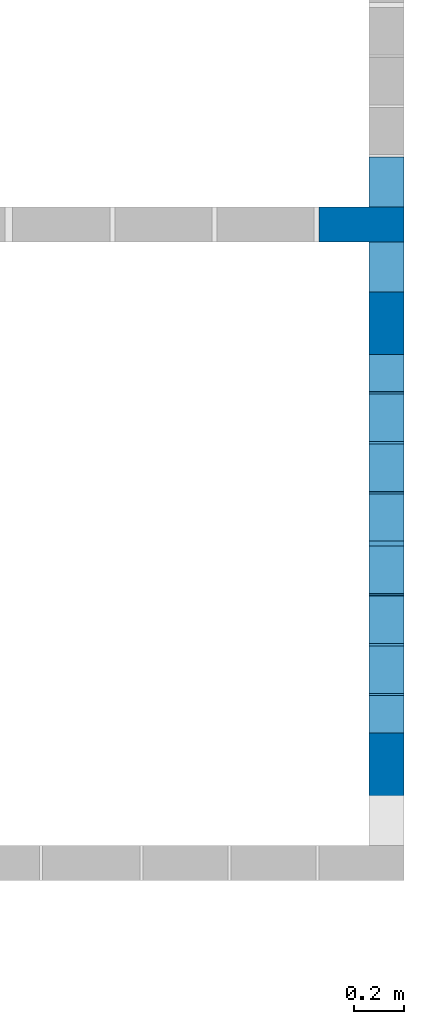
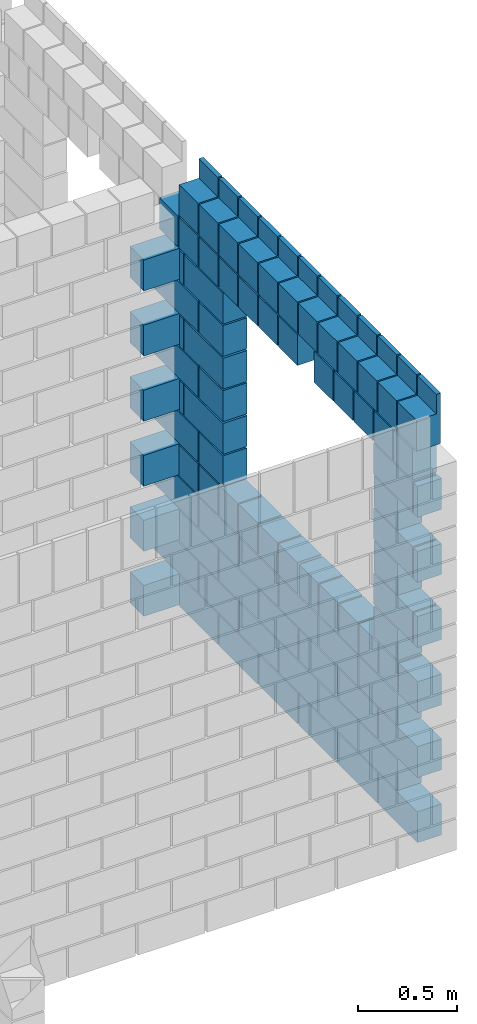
# One storey, part 6 of 12: 2 walls.
"""IFC4 building model written with IfcOpenShell, lengths in centimetres."""

from ifc_helpers import new_model, si_unit, derived_unit, frame, origin, origin_with_axes, origin_2d_with_axis, place, context, project, spatial, rectangle, extrude, element, save


model = new_model("IFC4")

# Units and contexts
model_context = context("Model", 3, precision=1e-05, world=origin_with_axes(), identifier="Body")
ifc_project = project(units=[si_unit("LENGTHUNIT", "METRE", prefix="CENTI"), si_unit("VOLUMEUNIT", "CUBIC_METRE"), si_unit("AREAUNIT", "SQUARE_METRE"), si_unit("POWERUNIT", "WATT"), si_unit("LUMINOUSFLUXUNIT", "LUMEN"), si_unit("ELECTRICCURRENTUNIT", "AMPERE"), si_unit("PRESSUREUNIT", "PASCAL", prefix="KILO"), si_unit("MASSUNIT", "GRAM", prefix="KILO"), si_unit("PLANEANGLEUNIT", "RADIAN"), derived_unit("VOLUMETRICFLOWRATEUNIT", [(si_unit("LENGTHUNIT", "METRE"), 3), (si_unit("TIMEUNIT", "SECOND"), -1)])], contexts=[model_context])

# Site, building, storey
site_placement = place(None, origin_with_axes())
site = spatial("IfcSite", under=ifc_project, at=site_placement)
building_placement = place(site_placement, origin())
building = spatial("IfcBuilding", under=site, at=building_placement)
storey_placement = place(building_placement, origin_with_axes())
storey = spatial("IfcBuildingStorey", under=building, at=storey_placement, Name="PISO", CompositionType="ELEMENT", Elevation=0.0)

# Walls
wall_1_placement = place(storey_placement, frame((682.01, 381.01, 239.0), z_axis=(0.0, 0.0, 1.0), x_axis=(1.0, 0.0, 0.0)))
element("IfcWall", 1, at=wall_1_placement, inside=storey, context=model_context, shape_type="SolidModel", body=[
    extrude(rectangle(XDim=34.0, YDim=14.0, at=origin_2d_with_axis()), frame((0.0, 0.0, -239.0), z_axis=(0.0, 0.0, 1.0), x_axis=(-1.0, 0.0, 0.0)), (0.0, 0.0, 1.0), 19.0),
    extrude(rectangle(XDim=54.0, YDim=14.0, at=origin_2d_with_axis()), frame((10.0, 0.0, -219.0), z_axis=(0.0, 0.0, 1.0), x_axis=(0.0, -1.0, 0.0)), (0.0, 0.0, 1.0), 19.0),
    extrude(rectangle(XDim=34.0, YDim=14.0, at=origin_2d_with_axis()), frame((0.0, 0.0, -199.0), z_axis=(0.0, 0.0, 1.0), x_axis=(-1.0, 0.0, 0.0)), (0.0, 0.0, 1.0), 19.0),
    extrude(rectangle(XDim=54.0, YDim=14.0, at=origin_2d_with_axis()), frame((10.0, 0.0, -179.0), z_axis=(0.0, 0.0, 1.0), x_axis=(0.0, -1.0, 0.0)), (0.0, 0.0, 1.0), 19.0),
    extrude(rectangle(XDim=34.0, YDim=14.0, at=origin_2d_with_axis()), frame((0.0, 0.0, -159.0), z_axis=(0.0, 0.0, 1.0), x_axis=(-1.0, 0.0, 0.0)), (0.0, 0.0, 1.0), 19.0),
    extrude(rectangle(XDim=54.0, YDim=14.0, at=origin_2d_with_axis()), frame((10.0, 0.0, -139.0), z_axis=(0.0, 0.0, 1.0), x_axis=(0.0, -1.0, 0.0)), (0.0, 0.0, 1.0), 19.0),
    extrude(rectangle(XDim=34.0, YDim=14.0, at=origin_2d_with_axis()), frame((0.0, 0.0, -119.0), z_axis=(0.0, 0.0, 1.0), x_axis=(-1.0, 0.0, 0.0)), (0.0, 0.0, 1.0), 19.0),
    extrude(rectangle(XDim=54.0, YDim=14.0, at=origin_2d_with_axis()), frame((10.0, 0.0, -99.0), z_axis=(0.0, 0.0, 1.0), x_axis=(0.0, -1.0, 0.0)), (0.0, 0.0, 1.0), 19.0),
    extrude(rectangle(XDim=34.0, YDim=14.0, at=origin_2d_with_axis()), frame((0.0, 0.0, -79.0), z_axis=(0.0, 0.0, 1.0), x_axis=(-1.0, 0.0, 0.0)), (0.0, 0.0, 1.0), 19.0),
    extrude(rectangle(XDim=54.0, YDim=14.0, at=origin_2d_with_axis()), frame((10.0, 0.0, -59.0), z_axis=(0.0, 0.0, 1.0), x_axis=(0.0, -1.0, 0.0)), (0.0, 0.0, 1.0), 19.0),
    extrude(rectangle(XDim=34.0, YDim=14.0, at=origin_2d_with_axis()), frame((0.0, 0.0, -39.0), z_axis=(0.0, 0.0, 1.0), x_axis=(-1.0, 0.0, 0.0)), (0.0, 0.0, 1.0), 19.0),
    extrude(rectangle(XDim=19.0, YDim=14.0, at=origin_2d_with_axis()), frame((10.0, 2.5, -19.0), z_axis=(0.0, 0.0, 1.0), x_axis=(0.0, 1.0, 0.0)), (0.0, 0.0, 1.0), 19.0),
])
wall_2_placement = place(storey_placement, frame((692.01, 253.005, 271.0), z_axis=(0.0, 0.0, 1.0), x_axis=(1.0, 0.0, 0.0)))
element("IfcWall", 2, at=wall_2_placement, inside=storey, Name="PAR-PISO-15", context=model_context, shape_type="SolidModel", body=[
    extrude(rectangle(XDim=39.0, YDim=14.0, at=origin_2d_with_axis()), frame((0.0, 100.36071428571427, -271.0), z_axis=(0.0, 0.0, 1.0), x_axis=(0.0, -1.0, 0.0)), (0.0, 0.0, 1.0), 19.0),
    extrude(rectangle(XDim=39.0, YDim=14.0, at=origin_2d_with_axis()), frame((0.0, 60.21642857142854, -271.0), z_axis=(0.0, 0.0, 1.0), x_axis=(0.0, -1.0, 0.0)), (0.0, 0.0, 1.0), 19.0),
    extrude(rectangle(XDim=39.0, YDim=14.0, at=origin_2d_with_axis()), frame((0.0, 20.072142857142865, -271.0), z_axis=(0.0, 0.0, 1.0), x_axis=(0.0, -1.0, 0.0)), (0.0, 0.0, 1.0), 19.0),
    extrude(rectangle(XDim=39.0, YDim=14.0, at=origin_2d_with_axis()), frame((0.0, -20.072142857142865, -271.0), z_axis=(0.0, 0.0, 1.0), x_axis=(0.0, -1.0, 0.0)), (0.0, 0.0, 1.0), 19.0),
    extrude(rectangle(XDim=39.0, YDim=14.0, at=origin_2d_with_axis()), frame((0.0, -60.216428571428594, -271.0), z_axis=(0.0, 0.0, 1.0), x_axis=(0.0, -1.0, 0.0)), (0.0, 0.0, 1.0), 19.0),
    extrude(rectangle(XDim=39.0, YDim=14.0, at=origin_2d_with_axis()), frame((0.0, -100.36071428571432, -271.0), z_axis=(0.0, 0.0, 1.0), x_axis=(0.0, -1.0, 0.0)), (0.0, 0.0, 1.0), 19.0),
    extrude(rectangle(XDim=39.0, YDim=14.0, at=origin_2d_with_axis()), frame((0.0, 80.33666666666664, -251.0), z_axis=(0.0, 0.0, 1.0), x_axis=(0.0, -1.0, 0.0)), (0.0, 0.0, 1.0), 19.0),
    extrude(rectangle(XDim=39.0, YDim=14.0, at=origin_2d_with_axis()), frame((0.0, 40.16833333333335, -251.0), z_axis=(0.0, 0.0, 1.0), x_axis=(0.0, -1.0, 0.0)), (0.0, 0.0, 1.0), 19.0),
    extrude(rectangle(XDim=39.0, YDim=14.0, at=origin_2d_with_axis()), frame((0.0, 0.0, -251.0), z_axis=(0.0, 0.0, 1.0), x_axis=(0.0, -1.0, 0.0)), (0.0, 0.0, 1.0), 19.0),
    extrude(rectangle(XDim=39.0, YDim=14.0, at=origin_2d_with_axis()), frame((0.0, -40.16833333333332, -251.0), z_axis=(0.0, 0.0, 1.0), x_axis=(0.0, -1.0, 0.0)), (0.0, 0.0, 1.0), 19.0),
    extrude(rectangle(XDim=39.0, YDim=14.0, at=origin_2d_with_axis()), frame((0.0, -80.33666666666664, -251.0), z_axis=(0.0, 0.0, 1.0), x_axis=(0.0, -1.0, 0.0)), (0.0, 0.0, 1.0), 19.0),
    extrude(rectangle(XDim=39.0, YDim=14.0, at=origin_2d_with_axis()), frame((0.0, 100.36071428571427, -231.0), z_axis=(0.0, 0.0, 1.0), x_axis=(0.0, -1.0, 0.0)), (0.0, 0.0, 1.0), 19.0),
    extrude(rectangle(XDim=39.0, YDim=14.0, at=origin_2d_with_axis()), frame((0.0, 60.21642857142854, -231.0), z_axis=(0.0, 0.0, 1.0), x_axis=(0.0, -1.0, 0.0)), (0.0, 0.0, 1.0), 19.0),
    extrude(rectangle(XDim=39.0, YDim=14.0, at=origin_2d_with_axis()), frame((0.0, 20.072142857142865, -231.0), z_axis=(0.0, 0.0, 1.0), x_axis=(0.0, -1.0, 0.0)), (0.0, 0.0, 1.0), 19.0),
    extrude(rectangle(XDim=39.0, YDim=14.0, at=origin_2d_with_axis()), frame((0.0, -20.072142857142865, -231.0), z_axis=(0.0, 0.0, 1.0), x_axis=(0.0, -1.0, 0.0)), (0.0, 0.0, 1.0), 19.0),
    extrude(rectangle(XDim=39.0, YDim=14.0, at=origin_2d_with_axis()), frame((0.0, -60.216428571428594, -231.0), z_axis=(0.0, 0.0, 1.0), x_axis=(0.0, -1.0, 0.0)), (0.0, 0.0, 1.0), 19.0),
    extrude(rectangle(XDim=39.0, YDim=14.0, at=origin_2d_with_axis()), frame((0.0, -100.36071428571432, -231.0), z_axis=(0.0, 0.0, 1.0), x_axis=(0.0, -1.0, 0.0)), (0.0, 0.0, 1.0), 19.0),
    extrude(rectangle(XDim=39.0, YDim=14.0, at=origin_2d_with_axis()), frame((0.0, 80.33666666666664, -211.0), z_axis=(0.0, 0.0, 1.0), x_axis=(0.0, -1.0, 0.0)), (0.0, 0.0, 1.0), 19.0),
    extrude(rectangle(XDim=39.0, YDim=14.0, at=origin_2d_with_axis()), frame((0.0, 40.16833333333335, -211.0), z_axis=(0.0, 0.0, 1.0), x_axis=(0.0, -1.0, 0.0)), (0.0, 0.0, 1.0), 19.0),
    extrude(rectangle(XDim=39.0, YDim=14.0, at=origin_2d_with_axis()), frame((0.0, 0.0, -211.0), z_axis=(0.0, 0.0, 1.0), x_axis=(0.0, -1.0, 0.0)), (0.0, 0.0, 1.0), 19.0),
    extrude(rectangle(XDim=39.0, YDim=14.0, at=origin_2d_with_axis()), frame((0.0, -40.16833333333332, -211.0), z_axis=(0.0, 0.0, 1.0), x_axis=(0.0, -1.0, 0.0)), (0.0, 0.0, 1.0), 19.0),
    extrude(rectangle(XDim=39.0, YDim=14.0, at=origin_2d_with_axis()), frame((0.0, -80.33666666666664, -211.0), z_axis=(0.0, 0.0, 1.0), x_axis=(0.0, -1.0, 0.0)), (0.0, 0.0, 1.0), 19.0),
    extrude(rectangle(XDim=19.0, YDim=14.0, at=origin_2d_with_axis()), frame((0.0, 110.505, -191.0), z_axis=(0.0, 0.0, 1.0), x_axis=(0.0, -1.0, 0.0)), (0.0, 0.0, 1.0), 19.0),
    extrude(rectangle(XDim=19.0, YDim=14.0, at=origin_2d_with_axis()), frame((0.0, 90.505, -191.0), z_axis=(0.0, 0.0, 1.0), x_axis=(0.0, -1.0, 0.0)), (0.0, 0.0, 1.0), 19.0),
    extrude(rectangle(XDim=19.0, YDim=14.0, at=origin_2d_with_axis()), frame((0.0, 70.505, -191.0), z_axis=(0.0, 0.0, 1.0), x_axis=(0.0, -1.0, 0.0)), (0.0, 0.0, 1.0), 19.0),
    extrude(rectangle(XDim=19.0, YDim=14.0, at=origin_2d_with_axis()), frame((0.0, 50.505, -191.0), z_axis=(0.0, 0.0, 1.0), x_axis=(0.0, -1.0, 0.0)), (0.0, 0.0, 1.0), 19.0),
    extrude(rectangle(XDim=19.0, YDim=14.0, at=origin_2d_with_axis()), frame((0.0, 30.505, -191.0), z_axis=(0.0, 0.0, 1.0), x_axis=(0.0, -1.0, 0.0)), (0.0, 0.0, 1.0), 19.0),
    extrude(rectangle(XDim=19.0, YDim=14.0, at=origin_2d_with_axis()), frame((0.0, 10.505, -191.0), z_axis=(0.0, 0.0, 1.0), x_axis=(0.0, -1.0, 0.0)), (0.0, 0.0, 1.0), 19.0),
    extrude(rectangle(XDim=19.0, YDim=14.0, at=origin_2d_with_axis()), frame((0.0, -10.505, -191.0), z_axis=(0.0, 0.0, 1.0), x_axis=(0.0, -1.0, 0.0)), (0.0, 0.0, 1.0), 19.0),
    extrude(rectangle(XDim=19.0, YDim=14.0, at=origin_2d_with_axis()), frame((0.0, -30.505, -191.0), z_axis=(0.0, 0.0, 1.0), x_axis=(0.0, -1.0, 0.0)), (0.0, 0.0, 1.0), 19.0),
    extrude(rectangle(XDim=19.0, YDim=14.0, at=origin_2d_with_axis()), frame((0.0, -50.505, -191.0), z_axis=(0.0, 0.0, 1.0), x_axis=(0.0, -1.0, 0.0)), (0.0, 0.0, 1.0), 19.0),
    extrude(rectangle(XDim=19.0, YDim=14.0, at=origin_2d_with_axis()), frame((0.0, -70.505, -191.0), z_axis=(0.0, 0.0, 1.0), x_axis=(0.0, -1.0, 0.0)), (0.0, 0.0, 1.0), 19.0),
    extrude(rectangle(XDim=19.0, YDim=14.0, at=origin_2d_with_axis()), frame((0.0, -90.505, -191.0), z_axis=(0.0, 0.0, 1.0), x_axis=(0.0, -1.0, 0.0)), (0.0, 0.0, 1.0), 19.0),
    extrude(rectangle(XDim=19.0, YDim=14.0, at=origin_2d_with_axis()), frame((0.0, -110.505, -191.0), z_axis=(0.0, 0.0, 1.0), x_axis=(0.0, -1.0, 0.0)), (0.0, 0.0, 1.0), 19.0),
    extrude(rectangle(XDim=24.0, YDim=14.0, at=origin_2d_with_axis()), frame((0.0, -88.005, -171.0), z_axis=(0.0, 0.0, 1.0), x_axis=(0.0, -1.0, 0.0)), (0.0, 0.0, 1.0), 19.0),
    extrude(rectangle(XDim=24.0, YDim=14.0, at=origin_2d_with_axis()), frame((0.0, 88.005, -171.0), z_axis=(0.0, 0.0, 1.0), x_axis=(0.0, -1.0, 0.0)), (0.0, 0.0, 1.0), 19.0),
    extrude(rectangle(XDim=4.0, YDim=14.0, at=origin_2d_with_axis()), frame((0.0, -117.86071428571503, -151.0), z_axis=(0.0, 0.0, 1.0), x_axis=(0.0, -1.0, 0.0)), (0.0, 0.0, 1.0), 19.0),
    extrude(rectangle(XDim=39.0, YDim=14.0, at=origin_2d_with_axis()), frame((0.0, -95.36071428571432, -151.0), z_axis=(0.0, 0.0, 1.0), x_axis=(0.0, -1.0, 0.0)), (0.0, 0.0, 1.0), 19.0),
    extrude(rectangle(XDim=4.0, YDim=14.0, at=origin_2d_with_axis()), frame((0.0, 117.86071428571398, -151.0), z_axis=(0.0, 0.0, 1.0), x_axis=(0.0, -1.0, 0.0)), (0.0, 0.0, 1.0), 19.0),
    extrude(rectangle(XDim=39.0, YDim=14.0, at=origin_2d_with_axis()), frame((0.0, 95.36071428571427, -151.0), z_axis=(0.0, 0.0, 1.0), x_axis=(0.0, -1.0, 0.0)), (0.0, 0.0, 1.0), 19.0),
    extrude(rectangle(XDim=24.0, YDim=14.0, at=origin_2d_with_axis()), frame((0.0, -88.005, -131.0), z_axis=(0.0, 0.0, 1.0), x_axis=(0.0, -1.0, 0.0)), (0.0, 0.0, 1.0), 19.0),
    extrude(rectangle(XDim=24.0, YDim=14.0, at=origin_2d_with_axis()), frame((0.0, 88.005, -131.0), z_axis=(0.0, 0.0, 1.0), x_axis=(0.0, -1.0, 0.0)), (0.0, 0.0, 1.0), 19.0),
    extrude(rectangle(XDim=4.0, YDim=14.0, at=origin_2d_with_axis()), frame((0.0, -117.86071428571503, -111.0), z_axis=(0.0, 0.0, 1.0), x_axis=(0.0, -1.0, 0.0)), (0.0, 0.0, 1.0), 19.0),
    extrude(rectangle(XDim=39.0, YDim=14.0, at=origin_2d_with_axis()), frame((0.0, -95.36071428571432, -111.0), z_axis=(0.0, 0.0, 1.0), x_axis=(0.0, -1.0, 0.0)), (0.0, 0.0, 1.0), 19.0),
    extrude(rectangle(XDim=4.0, YDim=14.0, at=origin_2d_with_axis()), frame((0.0, 117.86071428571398, -111.0), z_axis=(0.0, 0.0, 1.0), x_axis=(0.0, -1.0, 0.0)), (0.0, 0.0, 1.0), 19.0),
    extrude(rectangle(XDim=39.0, YDim=14.0, at=origin_2d_with_axis()), frame((0.0, 95.36071428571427, -111.0), z_axis=(0.0, 0.0, 1.0), x_axis=(0.0, -1.0, 0.0)), (0.0, 0.0, 1.0), 19.0),
    extrude(rectangle(XDim=24.0, YDim=14.0, at=origin_2d_with_axis()), frame((0.0, -88.005, -91.0), z_axis=(0.0, 0.0, 1.0), x_axis=(0.0, -1.0, 0.0)), (0.0, 0.0, 1.0), 19.0),
    extrude(rectangle(XDim=24.0, YDim=14.0, at=origin_2d_with_axis()), frame((0.0, 88.005, -91.0), z_axis=(0.0, 0.0, 1.0), x_axis=(0.0, -1.0, 0.0)), (0.0, 0.0, 1.0), 19.0),
    extrude(rectangle(XDim=4.0, YDim=14.0, at=origin_2d_with_axis()), frame((0.0, -117.86071428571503, -71.0), z_axis=(0.0, 0.0, 1.0), x_axis=(0.0, -1.0, 0.0)), (0.0, 0.0, 1.0), 19.0),
    extrude(rectangle(XDim=39.0, YDim=14.0, at=origin_2d_with_axis()), frame((0.0, -95.36071428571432, -71.0), z_axis=(0.0, 0.0, 1.0), x_axis=(0.0, -1.0, 0.0)), (0.0, 0.0, 1.0), 19.0),
    extrude(rectangle(XDim=4.0, YDim=14.0, at=origin_2d_with_axis()), frame((0.0, 117.86071428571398, -71.0), z_axis=(0.0, 0.0, 1.0), x_axis=(0.0, -1.0, 0.0)), (0.0, 0.0, 1.0), 19.0),
    extrude(rectangle(XDim=39.0, YDim=14.0, at=origin_2d_with_axis()), frame((0.0, 95.36071428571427, -71.0), z_axis=(0.0, 0.0, 1.0), x_axis=(0.0, -1.0, 0.0)), (0.0, 0.0, 1.0), 19.0),
    extrude(rectangle(XDim=19.0, YDim=14.0, at=origin_2d_with_axis()), frame((0.0, 110.505, -51.0), z_axis=(0.0, 0.0, 1.0), x_axis=(0.0, -1.0, 0.0)), (0.0, 0.0, 1.0), 19.0),
    extrude(rectangle(XDim=19.0, YDim=14.0, at=origin_2d_with_axis()), frame((0.0, 90.505, -51.0), z_axis=(0.0, 0.0, 1.0), x_axis=(0.0, -1.0, 0.0)), (0.0, 0.0, 1.0), 19.0),
    extrude(rectangle(XDim=19.0, YDim=14.0, at=origin_2d_with_axis()), frame((0.0, 70.505, -51.0), z_axis=(0.0, 0.0, 1.0), x_axis=(0.0, -1.0, 0.0)), (0.0, 0.0, 1.0), 19.0),
    extrude(rectangle(XDim=19.0, YDim=14.0, at=origin_2d_with_axis()), frame((0.0, 50.505, -51.0), z_axis=(0.0, 0.0, 1.0), x_axis=(0.0, -1.0, 0.0)), (0.0, 0.0, 1.0), 19.0),
    extrude(rectangle(XDim=19.0, YDim=14.0, at=origin_2d_with_axis()), frame((0.0, 30.505, -51.0), z_axis=(0.0, 0.0, 1.0), x_axis=(0.0, -1.0, 0.0)), (0.0, 0.0, 1.0), 19.0),
    extrude(rectangle(XDim=19.0, YDim=14.0, at=origin_2d_with_axis()), frame((0.0, 10.505, -51.0), z_axis=(0.0, 0.0, 1.0), x_axis=(0.0, -1.0, 0.0)), (0.0, 0.0, 1.0), 19.0),
    extrude(rectangle(XDim=19.0, YDim=14.0, at=origin_2d_with_axis()), frame((0.0, -25.505, -51.0), z_axis=(0.0, 0.0, 1.0), x_axis=(0.0, -1.0, 0.0)), (0.0, 0.0, 1.0), 19.0),
    extrude(rectangle(XDim=19.0, YDim=14.0, at=origin_2d_with_axis()), frame((0.0, -45.505, -51.0), z_axis=(0.0, 0.0, 1.0), x_axis=(0.0, -1.0, 0.0)), (0.0, 0.0, 1.0), 19.0),
    extrude(rectangle(XDim=19.0, YDim=14.0, at=origin_2d_with_axis()), frame((0.0, -65.505, -51.0), z_axis=(0.0, 0.0, 1.0), x_axis=(0.0, -1.0, 0.0)), (0.0, 0.0, 1.0), 19.0),
    extrude(rectangle(XDim=19.0, YDim=14.0, at=origin_2d_with_axis()), frame((0.0, -85.505, -51.0), z_axis=(0.0, 0.0, 1.0), x_axis=(0.0, -1.0, 0.0)), (0.0, 0.0, 1.0), 19.0),
    extrude(rectangle(XDim=19.0, YDim=14.0, at=origin_2d_with_axis()), frame((0.0, -105.505, -51.0), z_axis=(0.0, 0.0, 1.0), x_axis=(0.0, -1.0, 0.0)), (0.0, 0.0, 1.0), 19.0),
    extrude(rectangle(XDim=19.0, YDim=2.5, at=origin_2d_with_axis()), frame((5.75, 110.505, -12.0), z_axis=(0.0, 0.0, 1.0), x_axis=(0.0, -1.0, 0.0)), (0.0, 0.0, 1.0), 12.0),
    extrude(rectangle(XDim=19.0, YDim=14.0, at=origin_2d_with_axis()), frame((0.0, 110.505, -31.0), z_axis=(0.0, 0.0, 1.0), x_axis=(0.0, -1.0, 0.0)), (0.0, 0.0, 1.0), 19.0),
    extrude(rectangle(XDim=19.0, YDim=2.5, at=origin_2d_with_axis()), frame((5.75, 90.505, -12.0), z_axis=(0.0, 0.0, 1.0), x_axis=(0.0, -1.0, 0.0)), (0.0, 0.0, 1.0), 12.0),
    extrude(rectangle(XDim=19.0, YDim=14.0, at=origin_2d_with_axis()), frame((0.0, 90.505, -31.0), z_axis=(0.0, 0.0, 1.0), x_axis=(0.0, -1.0, 0.0)), (0.0, 0.0, 1.0), 19.0),
    extrude(rectangle(XDim=19.0, YDim=2.5, at=origin_2d_with_axis()), frame((5.75, 70.505, -12.0), z_axis=(0.0, 0.0, 1.0), x_axis=(0.0, -1.0, 0.0)), (0.0, 0.0, 1.0), 12.0),
    extrude(rectangle(XDim=19.0, YDim=14.0, at=origin_2d_with_axis()), frame((0.0, 70.505, -31.0), z_axis=(0.0, 0.0, 1.0), x_axis=(0.0, -1.0, 0.0)), (0.0, 0.0, 1.0), 19.0),
    extrude(rectangle(XDim=19.0, YDim=2.5, at=origin_2d_with_axis()), frame((5.75, 50.505, -12.0), z_axis=(0.0, 0.0, 1.0), x_axis=(0.0, -1.0, 0.0)), (0.0, 0.0, 1.0), 12.0),
    extrude(rectangle(XDim=19.0, YDim=14.0, at=origin_2d_with_axis()), frame((0.0, 50.505, -31.0), z_axis=(0.0, 0.0, 1.0), x_axis=(0.0, -1.0, 0.0)), (0.0, 0.0, 1.0), 19.0),
    extrude(rectangle(XDim=19.0, YDim=2.5, at=origin_2d_with_axis()), frame((5.75, 30.505, -12.0), z_axis=(0.0, 0.0, 1.0), x_axis=(0.0, -1.0, 0.0)), (0.0, 0.0, 1.0), 12.0),
    extrude(rectangle(XDim=19.0, YDim=14.0, at=origin_2d_with_axis()), frame((0.0, 30.505, -31.0), z_axis=(0.0, 0.0, 1.0), x_axis=(0.0, -1.0, 0.0)), (0.0, 0.0, 1.0), 19.0),
    extrude(rectangle(XDim=19.0, YDim=2.5, at=origin_2d_with_axis()), frame((5.75, 10.505, -12.0), z_axis=(0.0, 0.0, 1.0), x_axis=(0.0, -1.0, 0.0)), (0.0, 0.0, 1.0), 12.0),
    extrude(rectangle(XDim=19.0, YDim=14.0, at=origin_2d_with_axis()), frame((0.0, 10.505, -31.0), z_axis=(0.0, 0.0, 1.0), x_axis=(0.0, -1.0, 0.0)), (0.0, 0.0, 1.0), 19.0),
    extrude(rectangle(XDim=19.0, YDim=2.5, at=origin_2d_with_axis()), frame((5.75, -9.495, -12.0), z_axis=(0.0, 0.0, 1.0), x_axis=(0.0, -1.0, 0.0)), (0.0, 0.0, 1.0), 12.0),
    extrude(rectangle(XDim=19.0, YDim=14.0, at=origin_2d_with_axis()), frame((0.0, -9.495, -31.0), z_axis=(0.0, 0.0, 1.0), x_axis=(0.0, -1.0, 0.0)), (0.0, 0.0, 1.0), 19.0),
    extrude(rectangle(XDim=19.0, YDim=2.5, at=origin_2d_with_axis()), frame((5.75, -29.495, -12.0), z_axis=(0.0, 0.0, 1.0), x_axis=(0.0, -1.0, 0.0)), (0.0, 0.0, 1.0), 12.0),
    extrude(rectangle(XDim=19.0, YDim=14.0, at=origin_2d_with_axis()), frame((0.0, -29.495, -31.0), z_axis=(0.0, 0.0, 1.0), x_axis=(0.0, -1.0, 0.0)), (0.0, 0.0, 1.0), 19.0),
    extrude(rectangle(XDim=19.0, YDim=2.5, at=origin_2d_with_axis()), frame((5.75, -49.495, -12.0), z_axis=(0.0, 0.0, 1.0), x_axis=(0.0, -1.0, 0.0)), (0.0, 0.0, 1.0), 12.0),
    extrude(rectangle(XDim=19.0, YDim=14.0, at=origin_2d_with_axis()), frame((0.0, -49.495, -31.0), z_axis=(0.0, 0.0, 1.0), x_axis=(0.0, -1.0, 0.0)), (0.0, 0.0, 1.0), 19.0),
    extrude(rectangle(XDim=19.0, YDim=2.5, at=origin_2d_with_axis()), frame((5.75, -69.495, -12.0), z_axis=(0.0, 0.0, 1.0), x_axis=(0.0, -1.0, 0.0)), (0.0, 0.0, 1.0), 12.0),
    extrude(rectangle(XDim=19.0, YDim=14.0, at=origin_2d_with_axis()), frame((0.0, -69.495, -31.0), z_axis=(0.0, 0.0, 1.0), x_axis=(0.0, -1.0, 0.0)), (0.0, 0.0, 1.0), 19.0),
    extrude(rectangle(XDim=19.0, YDim=2.5, at=origin_2d_with_axis()), frame((5.75, -89.495, -12.0), z_axis=(0.0, 0.0, 1.0), x_axis=(0.0, -1.0, 0.0)), (0.0, 0.0, 1.0), 12.0),
    extrude(rectangle(XDim=19.0, YDim=14.0, at=origin_2d_with_axis()), frame((0.0, -89.495, -31.0), z_axis=(0.0, 0.0, 1.0), x_axis=(0.0, -1.0, 0.0)), (0.0, 0.0, 1.0), 19.0),
    extrude(rectangle(XDim=19.0, YDim=2.5, at=origin_2d_with_axis()), frame((5.75, -109.495, -12.0), z_axis=(0.0, 0.0, 1.0), x_axis=(0.0, -1.0, 0.0)), (0.0, 0.0, 1.0), 12.0),
    extrude(rectangle(XDim=19.0, YDim=14.0, at=origin_2d_with_axis()), frame((0.0, -109.495, -31.0), z_axis=(0.0, 0.0, 1.0), x_axis=(0.0, -1.0, 0.0)), (0.0, 0.0, 1.0), 19.0),
])

save(model, "model.ifc")
